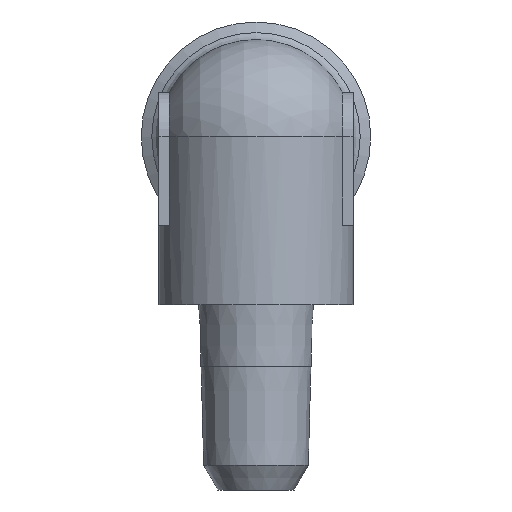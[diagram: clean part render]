
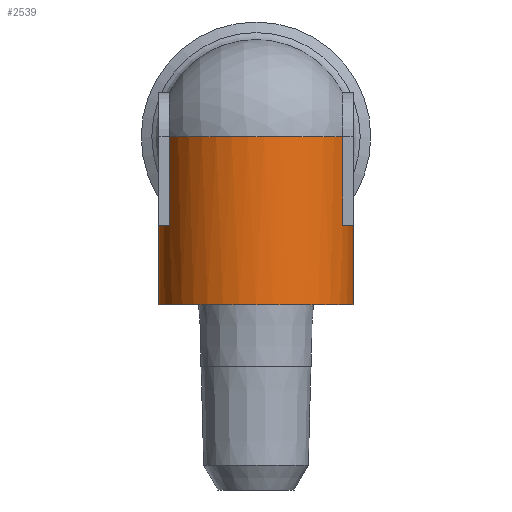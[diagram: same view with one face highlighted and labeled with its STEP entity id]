
A CAD part, left-side view. The second image highlights one B-rep face of the part: STEP entity #2539.
In plain terms, the highlighted cylindrical face has radius 5.5 mm (diameter 11 mm), a full revolution.
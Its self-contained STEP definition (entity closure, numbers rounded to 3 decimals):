
#12=ELLIPSE('',#2428,7.778,5.5);
#29=VECTOR('',#1902,1.);
#30=VECTOR('',#1907,1.);
#31=VECTOR('',#1912,1.);
#32=VECTOR('',#1915,1.);
#67=LINE('',#2288,#29);
#68=LINE('',#2293,#30);
#69=LINE('',#2298,#31);
#70=LINE('',#2301,#32);
#1068=CYLINDRICAL_SURFACE('',#2443,5.5);
#1199=ORIENTED_EDGE('',*,*,#1463,.T.);
#1200=ORIENTED_EDGE('',*,*,#1440,.F.);
#1201=ORIENTED_EDGE('',*,*,#1464,.F.);
#1202=ORIENTED_EDGE('',*,*,#1465,.F.);
#1203=ORIENTED_EDGE('',*,*,#1466,.F.);
#1204=ORIENTED_EDGE('',*,*,#1467,.F.);
#1205=ORIENTED_EDGE('',*,*,#1446,.F.);
#1206=ORIENTED_EDGE('',*,*,#1462,.F.);
#1207=ORIENTED_EDGE('',*,*,#1461,.F.);
#1208=ORIENTED_EDGE('',*,*,#1468,.F.);
#1209=ORIENTED_EDGE('',*,*,#1469,.F.);
#1314=CIRCLE('',#2433,5.5);
#1317=CIRCLE('',#2441,5.5);
#1318=CIRCLE('',#2444,5.5);
#1319=CIRCLE('',#2445,5.5);
#1320=CIRCLE('',#2446,5.5);
#1321=CIRCLE('',#2447,5.5);
#1367=VERTEX_POINT('',#2242);
#1368=VERTEX_POINT('',#2244);
#1372=VERTEX_POINT('',#2254);
#1373=VERTEX_POINT('',#2256);
#1377=VERTEX_POINT('',#2272);
#1382=VERTEX_POINT('',#2284);
#1383=VERTEX_POINT('',#2290);
#1384=VERTEX_POINT('',#2292);
#1385=VERTEX_POINT('',#2294);
#1386=VERTEX_POINT('',#2296);
#1387=VERTEX_POINT('',#2299);
#1440=EDGE_CURVE('',#1367,#1368,#12,.T.);
#1446=EDGE_CURVE('',#1372,#1373,#1314,.T.);
#1461=EDGE_CURVE('',#1377,#1382,#1317,.T.);
#1462=EDGE_CURVE('',#1382,#1372,#67,.T.);
#1463=EDGE_CURVE('',#1383,#1383,#1318,.T.);
#1464=EDGE_CURVE('',#1384,#1367,#68,.T.);
#1465=EDGE_CURVE('',#1385,#1384,#1319,.T.);
#1466=EDGE_CURVE('',#1386,#1385,#1320,.T.);
#1467=EDGE_CURVE('',#1373,#1386,#69,.T.);
#1468=EDGE_CURVE('',#1387,#1377,#1321,.T.);
#1469=EDGE_CURVE('',#1368,#1387,#70,.T.);
#1571=EDGE_LOOP('',(#1199));
#1572=EDGE_LOOP('',(#1200,#1201,#1202,#1203,#1204,#1205,#1206,#1207,#1208,
#1209));
#1674=FACE_BOUND('',#1571,.T.);
#1675=FACE_BOUND('',#1572,.T.);
#1858=DIRECTION('',(0.707,0.707,0.));
#1859=DIRECTION('',(0.707,-0.707,0.));
#1870=DIRECTION('',(0.,1.,0.));
#1871=DIRECTION('',(0.,0.,-5.5));
#1898=DIRECTION('',(0.,1.,0.));
#1899=DIRECTION('',(0.,0.,-5.5));
#1902=DIRECTION('',(0.,5.,0.));
#1903=DIRECTION('',(0.,1.,0.));
#1904=DIRECTION('',(1.,0.,0.));
#1905=DIRECTION('',(0.,1.,0.));
#1906=DIRECTION('',(5.5,0.,0.));
#1907=DIRECTION('',(0.,2.5,0.));
#1908=DIRECTION('',(0.,1.,0.));
#1909=DIRECTION('',(0.,0.,-5.5));
#1910=DIRECTION('',(0.,1.,0.));
#1911=DIRECTION('',(0.,0.,-5.5));
#1912=DIRECTION('',(0.,-5.,0.));
#1913=DIRECTION('',(0.,1.,0.));
#1914=DIRECTION('',(0.,0.,-5.5));
#1915=DIRECTION('',(0.,-2.5,0.));
#2242=CARTESIAN_POINT('',(2.5,-2.5,4.899));
#2244=CARTESIAN_POINT('',(2.5,-2.5,-4.899));
#2245=CARTESIAN_POINT('',(0.,0.,0.));
#2254=CARTESIAN_POINT('',(-2.5,0.,-4.899));
#2256=CARTESIAN_POINT('',(-2.5,0.,4.899));
#2257=CARTESIAN_POINT('',(0.,0.,0.));
#2272=CARTESIAN_POINT('',(0.,-5.,-5.5));
#2284=CARTESIAN_POINT('',(-2.5,-5.,-4.899));
#2286=CARTESIAN_POINT('',(0.,-5.,0.));
#2288=CARTESIAN_POINT('',(-2.5,-5.,-4.899));
#2289=CARTESIAN_POINT('',(0.,-9.5,0.));
#2290=CARTESIAN_POINT('',(5.5,-9.5,0.));
#2291=CARTESIAN_POINT('',(0.,-9.5,0.));
#2292=CARTESIAN_POINT('',(2.5,-5.,4.899));
#2293=CARTESIAN_POINT('',(2.5,-5.,4.899));
#2294=CARTESIAN_POINT('',(0.,-5.,5.5));
#2295=CARTESIAN_POINT('',(0.,-5.,0.));
#2296=CARTESIAN_POINT('',(-2.5,-5.,4.899));
#2297=CARTESIAN_POINT('',(0.,-5.,0.));
#2298=CARTESIAN_POINT('',(-2.5,0.,4.899));
#2299=CARTESIAN_POINT('',(2.5,-5.,-4.899));
#2300=CARTESIAN_POINT('',(0.,-5.,0.));
#2301=CARTESIAN_POINT('',(2.5,-2.5,-4.899));
#2428=AXIS2_PLACEMENT_3D('',#2245,#1858,#1859);
#2433=AXIS2_PLACEMENT_3D('',#2257,#1870,#1871);
#2441=AXIS2_PLACEMENT_3D('',#2286,#1898,#1899);
#2443=AXIS2_PLACEMENT_3D('',#2289,#1903,#1904);
#2444=AXIS2_PLACEMENT_3D('',#2291,#1905,#1906);
#2445=AXIS2_PLACEMENT_3D('',#2295,#1908,#1909);
#2446=AXIS2_PLACEMENT_3D('',#2297,#1910,#1911);
#2447=AXIS2_PLACEMENT_3D('',#2300,#1913,#1914);
#2539=ADVANCED_FACE('',(#1674,#1675),#1068,.T.);
